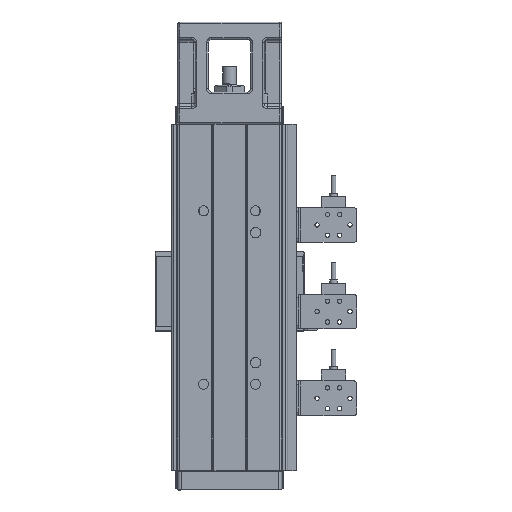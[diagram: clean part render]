
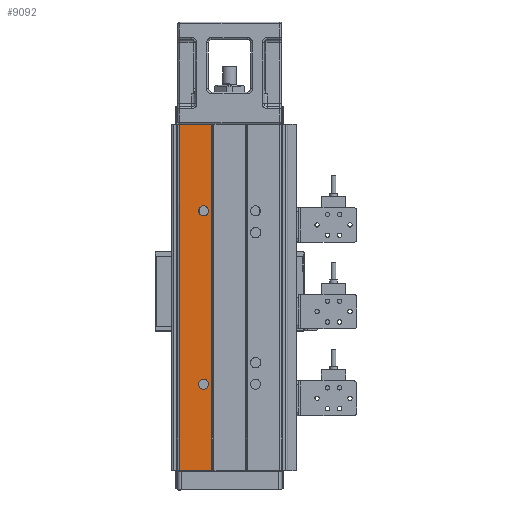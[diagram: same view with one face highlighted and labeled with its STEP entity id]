
A CAD part, front view. The second image highlights one B-rep face of the part: STEP entity #9092.
In plain terms, the highlighted planar face has unit normal (0, -1, 0).
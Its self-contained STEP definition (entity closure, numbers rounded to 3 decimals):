
#1741 = CARTESIAN_POINT ( 'NONE',  ( -15., 0., -50. ) ) ;
#2444 = DIRECTION ( 'NONE',  ( 0., 1., 0. ) ) ;
#2642 = FACE_BOUND ( 'NONE', #34824, .T. ) ;
#3136 = VERTEX_POINT ( 'NONE', #57129 ) ;
#6609 = LINE ( 'NONE', #45821, #39981 ) ;
#8299 = AXIS2_PLACEMENT_3D ( 'NONE', #13555, #56045, #47100 ) ;
#9092 = ADVANCED_FACE ( 'NONE', ( #59696, #11587, #2642 ), #47122, .T. ) ;
#10265 = VECTOR ( 'NONE', #51212, 1000. ) ;
#10686 = DIRECTION ( 'NONE',  ( 0., 0., 1. ) ) ;
#11503 = AXIS2_PLACEMENT_3D ( 'NONE', #1741, #40910, #10686 ) ;
#11587 = FACE_BOUND ( 'NONE', #57383, .T. ) ;
#12080 = CARTESIAN_POINT ( 'NONE',  ( 0., 0., -200. ) ) ;
#12407 = EDGE_CURVE ( 'NONE', #43520, #16637, #6609, .T. ) ;
#12781 = ORIENTED_EDGE ( 'NONE', *, *, #32231, .T. ) ;
#13555 = CARTESIAN_POINT ( 'NONE',  ( -15., 0., -50. ) ) ;
#15142 = VERTEX_POINT ( 'NONE', #35914 ) ;
#16630 = VERTEX_POINT ( 'NONE', #32025 ) ;
#16637 = VERTEX_POINT ( 'NONE', #24073 ) ;
#16937 = CARTESIAN_POINT ( 'NONE',  ( -30., 0., 0. ) ) ;
#20589 = ORIENTED_EDGE ( 'NONE', *, *, #60260, .T. ) ;
#20611 = VECTOR ( 'NONE', #28984, 1000. ) ;
#20746 = CIRCLE ( 'NONE', #8299, 2.9 ) ;
#21168 = CARTESIAN_POINT ( 'NONE',  ( -15., 0., -52.9 ) ) ;
#24073 = CARTESIAN_POINT ( 'NONE',  ( -10.414, 0., 0. ) ) ;
#24648 = DIRECTION ( 'NONE',  ( 1., 0., 0. ) ) ;
#25651 = LINE ( 'NONE', #68098, #20611 ) ;
#25892 = DIRECTION ( 'NONE',  ( 0., 0., -1. ) ) ;
#27968 = CARTESIAN_POINT ( 'NONE',  ( -29.086, 0., 0. ) ) ;
#28984 = DIRECTION ( 'NONE',  ( 0., 0., 1. ) ) ;
#29326 = ORIENTED_EDGE ( 'NONE', *, *, #31102, .T. ) ;
#30073 = DIRECTION ( 'NONE',  ( 0., 1., 0. ) ) ;
#31100 = EDGE_CURVE ( 'NONE', #16630, #16637, #25651, .T. ) ;
#31102 = EDGE_CURVE ( 'NONE', #3136, #15142, #38149, .T. ) ;
#31261 = EDGE_CURVE ( 'NONE', #43520, #47963, #67084, .T. ) ;
#31303 = DIRECTION ( 'NONE',  ( 0., 0., -1. ) ) ;
#32025 = CARTESIAN_POINT ( 'NONE',  ( -10.414, 0., -200. ) ) ;
#32231 = EDGE_CURVE ( 'NONE', #15142, #3136, #65284, .T. ) ;
#32642 = CARTESIAN_POINT ( 'NONE',  ( -15., 0., -150. ) ) ;
#34824 = EDGE_LOOP ( 'NONE', ( #29326, #12781 ) ) ;
#35627 = EDGE_LOOP ( 'NONE', ( #58355, #20589, #41221, #39355 ) ) ;
#35914 = CARTESIAN_POINT ( 'NONE',  ( -15., 0., -152.9 ) ) ;
#37442 = CARTESIAN_POINT ( 'NONE',  ( -29.086, 0., 0. ) ) ;
#38149 = CIRCLE ( 'NONE', #57854, 2.9 ) ;
#39003 = CARTESIAN_POINT ( 'NONE',  ( -15., 0., -150. ) ) ;
#39355 = ORIENTED_EDGE ( 'NONE', *, *, #12407, .F. ) ;
#39981 = VECTOR ( 'NONE', #24648, 1000. ) ;
#40652 = EDGE_CURVE ( 'NONE', #57157, #69117, #20746, .T. ) ;
#40910 = DIRECTION ( 'NONE',  ( 0., 1., 0. ) ) ;
#41221 = ORIENTED_EDGE ( 'NONE', *, *, #31100, .T. ) ;
#41604 = DIRECTION ( 'NONE',  ( 0., 0., 1. ) ) ;
#42285 = LINE ( 'NONE', #12080, #10265 ) ;
#43520 = VERTEX_POINT ( 'NONE', #37442 ) ;
#45821 = CARTESIAN_POINT ( 'NONE',  ( 0., 0., 0. ) ) ;
#47100 = DIRECTION ( 'NONE',  ( 0., 0., 1. ) ) ;
#47122 = PLANE ( 'NONE',  #56212 ) ;
#47963 = VERTEX_POINT ( 'NONE', #64980 ) ;
#49654 = ORIENTED_EDGE ( 'NONE', *, *, #56148, .T. ) ;
#51212 = DIRECTION ( 'NONE',  ( 1., 0., 0. ) ) ;
#52914 = AXIS2_PLACEMENT_3D ( 'NONE', #32642, #2444, #41604 ) ;
#52983 = VECTOR ( 'NONE', #31303, 1000. ) ;
#56045 = DIRECTION ( 'NONE',  ( 0., 1., 0. ) ) ;
#56065 = DIRECTION ( 'NONE',  ( 0., -1., 0. ) ) ;
#56148 = EDGE_CURVE ( 'NONE', #69117, #57157, #61134, .T. ) ;
#56212 = AXIS2_PLACEMENT_3D ( 'NONE', #16937, #56065, #25892 ) ;
#57129 = CARTESIAN_POINT ( 'NONE',  ( -15., 0., -147.1 ) ) ;
#57157 = VERTEX_POINT ( 'NONE', #21168 ) ;
#57383 = EDGE_LOOP ( 'NONE', ( #49654, #61328 ) ) ;
#57854 = AXIS2_PLACEMENT_3D ( 'NONE', #39003, #30073, #60264 ) ;
#58355 = ORIENTED_EDGE ( 'NONE', *, *, #31261, .T. ) ;
#59696 = FACE_OUTER_BOUND ( 'NONE', #35627, .T. ) ;
#60260 = EDGE_CURVE ( 'NONE', #47963, #16630, #42285, .T. ) ;
#60264 = DIRECTION ( 'NONE',  ( 0., 0., 1. ) ) ;
#61134 = CIRCLE ( 'NONE', #11503, 2.9 ) ;
#61328 = ORIENTED_EDGE ( 'NONE', *, *, #40652, .T. ) ;
#61919 = CARTESIAN_POINT ( 'NONE',  ( -15., 0., -47.1 ) ) ;
#64980 = CARTESIAN_POINT ( 'NONE',  ( -29.086, 0., -200. ) ) ;
#65284 = CIRCLE ( 'NONE', #52914, 2.9 ) ;
#67084 = LINE ( 'NONE', #27968, #52983 ) ;
#68098 = CARTESIAN_POINT ( 'NONE',  ( -10.414, 0., 0. ) ) ;
#69117 = VERTEX_POINT ( 'NONE', #61919 ) ;
